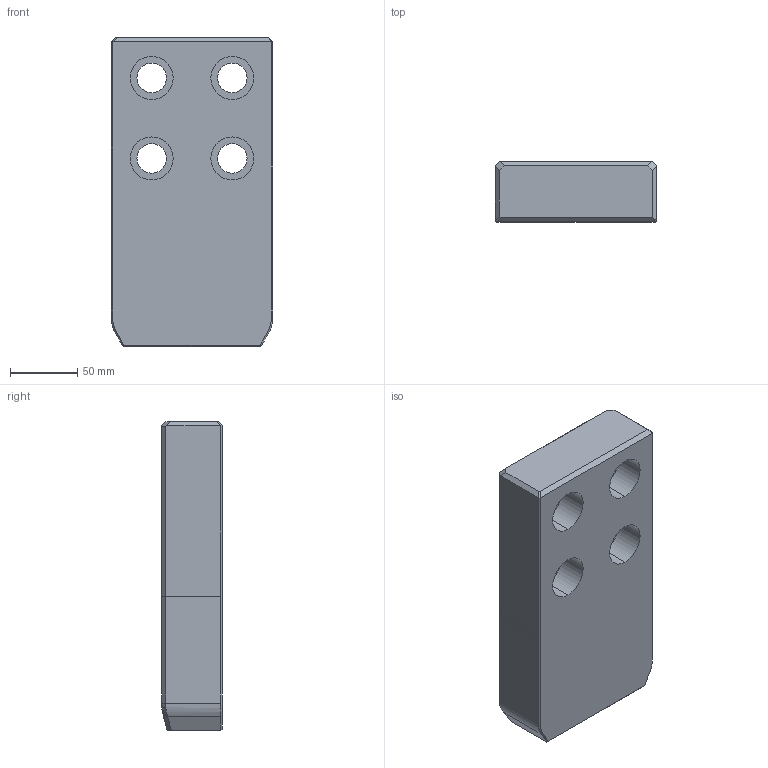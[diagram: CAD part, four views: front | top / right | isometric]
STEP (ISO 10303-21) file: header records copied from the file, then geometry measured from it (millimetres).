
FILE_DESCRIPTION((''),'2;1');
FILE_NAME('','2010-08-30T14:08:35+09:00',('misumi'),(''),'M/STEP i/f 1R2-14','CADmeister v5.1','');
FILE_SCHEMA(('AUTOMOTIVE_DESIGN'));
Length unit declared in the file: millimetre
Products named in the file (1): OGPZ120-230
Bounding box: 120 x 45 x 230 mm (x, y, z)
Volume: 1119652 mm3; surface area: 96950.6 mm2
Topology: 1 solids, 1 shells, 66 faces, 156 edges, 97 vertices
Faces by surface type: plane 37, cylinder 21, bspline 6, cone 2
Entity records: 2262 total; most frequent: CARTESIAN_POINT 662, ORIENTED_EDGE 312, DIRECTION 300, EDGE_CURVE 156, AXIS2_PLACEMENT_3D 101, LINE 98, VECTOR 98, VERTEX_POINT 97
